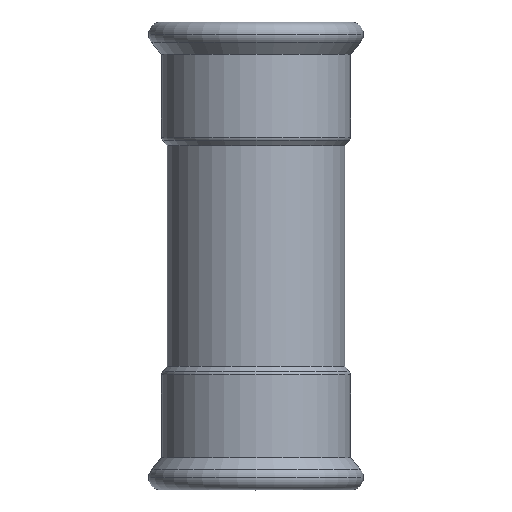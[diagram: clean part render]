
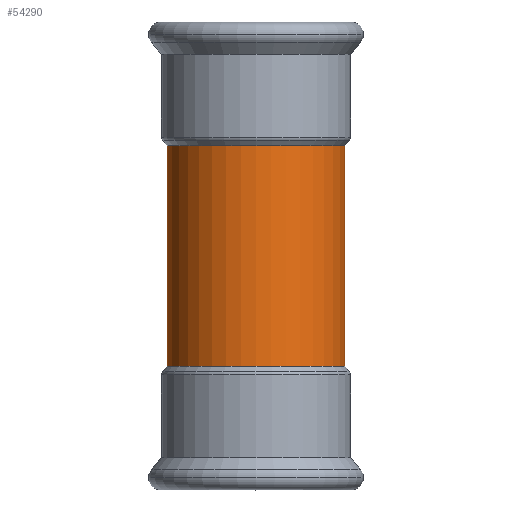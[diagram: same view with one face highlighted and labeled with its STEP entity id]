
A CAD part, top view. The second image highlights one B-rep face of the part: STEP entity #54290.
In plain terms, the highlighted cylindrical face has radius 27 mm (diameter 54 mm), a partial arc.
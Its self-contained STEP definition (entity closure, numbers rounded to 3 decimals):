
#12740=CARTESIAN_POINT('',(-288.511,159.022,
33.5));
#12750=DIRECTION('',(0.,0.,1.));
#12760=DIRECTION('',(-1.,0.,0.));
#12770=AXIS2_PLACEMENT_3D('',#12740,#12750,#12760);
#12780=CYLINDRICAL_SURFACE('',#12770,27.);
#20030=CARTESIAN_POINT('',(-261.511,159.022,
33.5));
#20040=DIRECTION('',(0.,0.,1.));
#20050=VECTOR('',#20040,1.);
#20060=LINE('',#20030,#20050);
#20070=CARTESIAN_POINT('',(-261.511,159.022,
-33.5));
#20080=VERTEX_POINT('',#20070);
#20090=CARTESIAN_POINT('',(-261.511,159.022,
33.5));
#20100=VERTEX_POINT('',#20090);
#20110=EDGE_CURVE('',#20080,#20100,#20060,.T.);
#20130=CARTESIAN_POINT('',(-288.511,159.022,
33.5));
#20140=DIRECTION('',(0.,0.,1.));
#20150=DIRECTION('',(1.,0.,0.));
#20160=AXIS2_PLACEMENT_3D('',#20130,#20140,#20150);
#20170=CIRCLE('',#20160,27.);
#20180=CARTESIAN_POINT('',(-315.511,159.022,
33.5));
#20190=VERTEX_POINT('',#20180);
#20220=CARTESIAN_POINT('',(-315.511,159.022,
33.5));
#20230=DIRECTION('',(0.,0.,1.));
#20240=VECTOR('',#20230,1.);
#20250=LINE('',#20220,#20240);
#20260=CARTESIAN_POINT('',(-315.511,159.022,
-33.5));
#20270=VERTEX_POINT('',#20260);
#20280=EDGE_CURVE('',#20270,#20190,#20250,.T.);
#20300=CARTESIAN_POINT('',(-288.511,159.022,
-33.5));
#20310=DIRECTION('',(0.,0.,1.));
#20320=DIRECTION('',(-1.,0.,0.));
#20330=AXIS2_PLACEMENT_3D('',#20300,#20310,#20320);
#20340=CIRCLE('',#20330,27.);
#54210=EDGE_CURVE('',#20190,#20100,#20170,.T.);
#54220=ORIENTED_EDGE('',*,*,#54210,.F.);
#54230=ORIENTED_EDGE('',*,*,#20110,.T.);
#54240=EDGE_CURVE('',#20270,#20080,#20340,.T.);
#54250=ORIENTED_EDGE('',*,*,#54240,.T.);
#54260=ORIENTED_EDGE('',*,*,#20280,.F.);
#54270=EDGE_LOOP('',(#54260,#54250,#54230,#54220));
#54280=FACE_OUTER_BOUND('',#54270,.T.);
#54290=ADVANCED_FACE('',(#54280),#12780,.T.);
